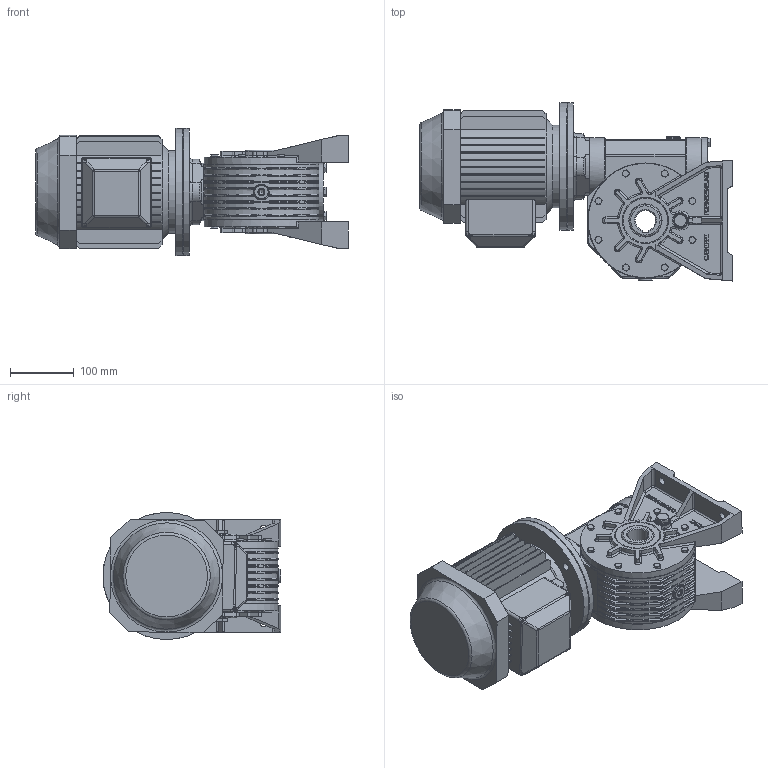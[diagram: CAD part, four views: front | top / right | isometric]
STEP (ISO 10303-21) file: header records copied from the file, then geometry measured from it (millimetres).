
FILE_DESCRIPTION((''),'2;1');
FILE_NAME('Y:\Archivi Inventor\Prog_01\GRAND_40\figurini\MRV40_SITO\90S\MRV40_P3_90S_B5.stp','2013-02-06T14:08:47',('tech3'),(''),'Autodesk Inventor 2013','Autodesk Inventor 2013','');
FILE_SCHEMA(('AUTOMOTIVE_DESIGN { 1 0 10303 214 1 1 1 1 }'));
Length unit declared in the file: millimetre
Products named in the file (18): MRV40_80_90S_90L_B5; MRV40 figurino; 0104001.A0 figurino; 0104009.A0 figurino; 0104028; 0104029; fig_mozzo corona. MRV-RV40cusc_conici; PARAOLIO 35x47x8; PARAOLIO 50x70x10; Guarnizione 3_8 GAS; Tappo 3_8 GAS_esagn_incsst; Tappo3_8 GAS; 0104010.A0 figurino; UNI 5739  M6 x 20; UNI 5931  M 8 x  25; UNI 5739 M8 x 20; 0104006; motori B5 90S
Assembly tree (47 placements, depth 3):
  MRV40_80_90S_90L_B5
    MRV40 figurino
      0104001.A0 figurino
      0104009.A0 figurino
      0104028  x2
      0104029  x2
      fig_mozzo corona. MRV-RV40cusc_conici
      PARAOLIO 35x47x8
      PARAOLIO 50x70x10  x2
      Guarnizione 3_8 GAS  x4
      Tappo 3_8 GAS_esagn_incsst  x2
      Tappo3_8 GAS  x2
      0104010.A0 figurino  x2
      UNI 5739  M6 x 20  x16
      UNI 5931  M 8 x  25  x4
      UNI 5739 M8 x 20  x4
    0104006
    motori B5 90S
Bounding box: 492.4 x 280 x 200 mm (x, y, z)
Volume: 9118572.4 mm3; surface area: 1004436.2 mm2
Topology: 46 solids, 46 shells, 2647 faces, 6614 edges, 4110 vertices
Faces by surface type: plane 1272, cylinder 655, bspline 366, cone 192, torus 134, sphere 28
Full cylindrical faces by diameter (mm): 2 x2, 4.917 x16, 6 x16, 6.5 x32, 8 x10, 8.5 x12, 8.75 x4, 8.88 x16, 11 x4, 11.5 x4, 11.63 x4, 12 x4, 13 x4, 13.046 x2, 14.95 x4, 16.3 x4, 16.5 x2, 22 x8, 24 x1, 25 x2, 39.605 x1, 43.5 x1, 47 x2, 50 x1, 55 x1, 56.381 x2, 62 x3, 65 x2, 70 x4, 89.5 x2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
Entity records: 59934 total; most frequent: CARTESIAN_POINT 19286, ORIENTED_EDGE 8234, DIRECTION 7888, EDGE_CURVE 4117, AXIS2_PLACEMENT_3D 2849, VERTEX_POINT 2657, VECTOR 2190, LINE 2190
